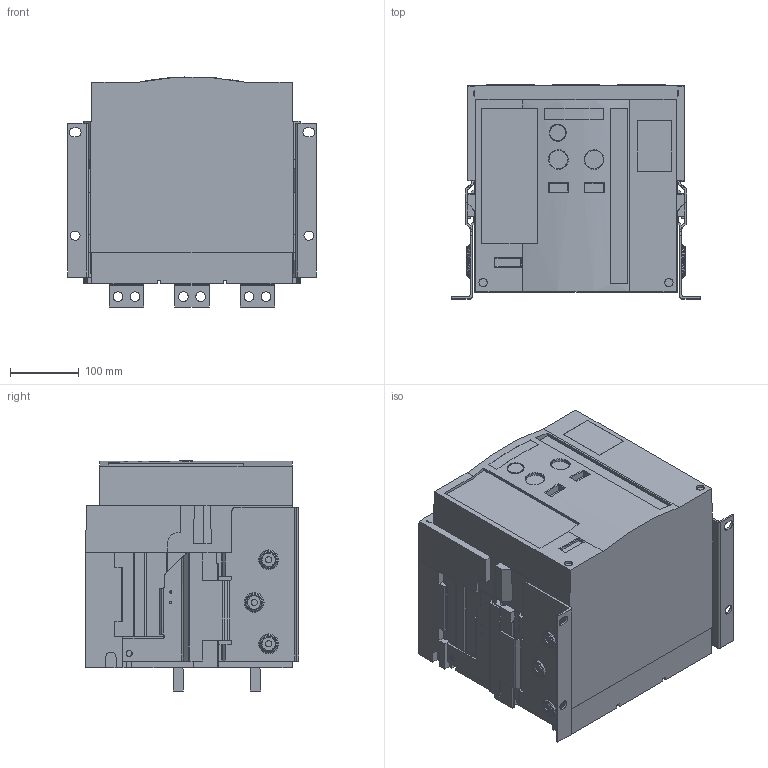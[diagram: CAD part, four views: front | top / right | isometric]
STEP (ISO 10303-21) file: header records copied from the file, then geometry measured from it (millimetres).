
FILE_DESCRIPTION (( 'STEP AP214' ), '1' );
FILE_NAME ('OptiMat A-S2-B-630-1600-3P-F-H.STEP', '2023-10-03T13:10:55', ( '' ), ( '' ), 'SwSTEP 2.0', 'SolidWorks 2018', '' );
FILE_SCHEMA (( 'AUTOMOTIVE_DESIGN' ));
Length unit declared in the file: millimetre
Products named in the file (1): OptiMat A-S2-B-630-1600-3P-F-H
Bounding box: 361 x 310.52 x 333.77 mm (x, y, z)
Volume: 25437496.5 mm3; surface area: 915480 mm2
Topology: 1 solids, 3 shells, 1686 faces, 4470 edges, 2939 vertices
Faces by surface type: plane 971, cylinder 538, cone 100, torus 69, bspline 8
Entity records: 73926 total; most frequent: CARTESIAN_POINT 13847, DIRECTION 9012, ORIENTED_EDGE 8936, EDGE_CURVE 4468, AXIS2_PLACEMENT_3D 3057, VERTEX_POINT 2939, VECTOR 2898, LINE 2898
